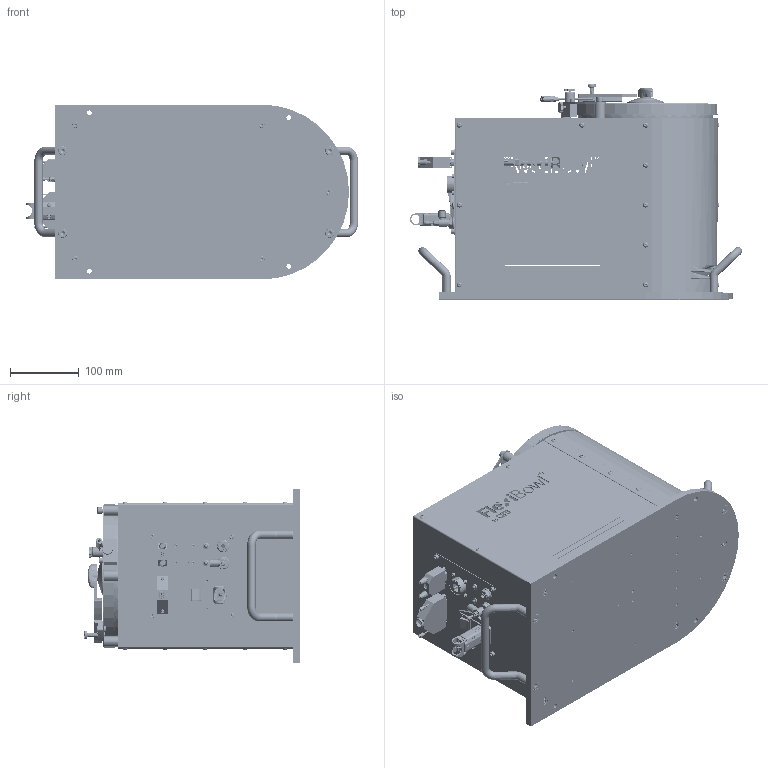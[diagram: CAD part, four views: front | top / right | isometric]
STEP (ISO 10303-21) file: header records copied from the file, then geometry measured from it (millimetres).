
FILE_DESCRIPTION (( 'STEP AP214' ), '1' );
FILE_NAME ('FB200C.STEP', '2021-09-09T13:07:11', ( '' ), ( '' ), 'SwSTEP 2.0', 'SolidWorks 2020', '' );
FILE_SCHEMA (( 'AUTOMOTIVE_DESIGN' ));
Length unit declared in the file: millimetre
Products named in the file (85): PD001533; CE000334; Copia di qcths0834-b_02^CM000690_______; PD002836; SM000093; PD002405; PD001539; CM001001; Copia di 39-01-2045^CE000335; Copia di Connettore te 2 poli - Copia^CE000302; CM000006; CE000336; PD001735; CE000039; CM000622; PD001125; CM000015_001; Copia di 15 poli femmina^CE000302; Copia di qcths0834-b_01^CM000690_______; CM000021; CE000418; CM000032; CE000013; PD001451; Copia di CE000327^CE000336; Copia di qcths0834-20s_01^CM000689_______; PD001138; CM000024; PD001542_FB200; CM000932; CE000276; PD001452; CM000917; PD001532; CM000691; CE000335; CM000689; PD001733; PD001734; CM000179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
Assembly tree (200 placements, depth 3):
  FB200C
    CM000021  x5
    CM000397  x5
    CM000725  x11
    CM000043  x13
    CM000045  x21
    CM000621  x2
    CM000032  x4
    CM000179
    CM000027  x2
    CM000035  x2
    CM000622  x2
    CM000130  x6
    CM000026  x16
    CM000024  x16
    CM000691
    CM000025  x4
    CM000006  x4
    CM000166  x4
    CM000170  x3
    CM000932
    PD001537
    CM000001  x2
    PD001532  x5
    PD001536
    PD001533  x2
    PD001538
    PD001539
    PD001452
    CM000690
      Copia di qcths0834-b_01^CM000690_______
      Copia di qcths0834-b_02^CM000690_______
      Copia di qcths0834-b_03^CM000690_______
      Copia di qcths0834-b_04^CM000690_______
    CM000689
      Copia di qcths0834-20s_01^CM000689_______
      Copia di qcths0834-20s_02^CM000689_______
      Copia di qcths0834-20s_03^CM000689_______
      Copia di qcths0834-20s_04^CM000689_______
      Copia di qcths0834-20s_05^CM000689_______
    PD001137
    PD001138
    PD001451
    PD002407  x3
    PD002406
    PD001126
    PD001125
    SM000093
    CM000723  x2
    PD001734
    PD001735
    PD001733  x2
    PD001542_FB200
    CE000007
    CM000015  x2
      CM000015_001
      CM000015_002
    CE000013  x2
    CE000335
      Copia di Led RDY_FLT^CE000335
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Bounding box: 482.2 x 312.5 x 254 mm (x, y, z)
Volume: 2266151.8 mm3; surface area: 1387814.2 mm2
Topology: 211 solids, 230 shells, 14399 faces, 36240 edges, 22510 vertices
Faces by surface type: plane 6876, cylinder 3592, cone 2073, bspline 1248, torus 543, sphere 67
Entity records: 513691 total; most frequent: CARTESIAN_POINT 178917, ORIENTED_EDGE 59582, DIRECTION 51277, EDGE_CURVE 29993, VERTEX_POINT 19052, AXIS2_PLACEMENT_3D 18293, LINE 14691, VECTOR 14691
